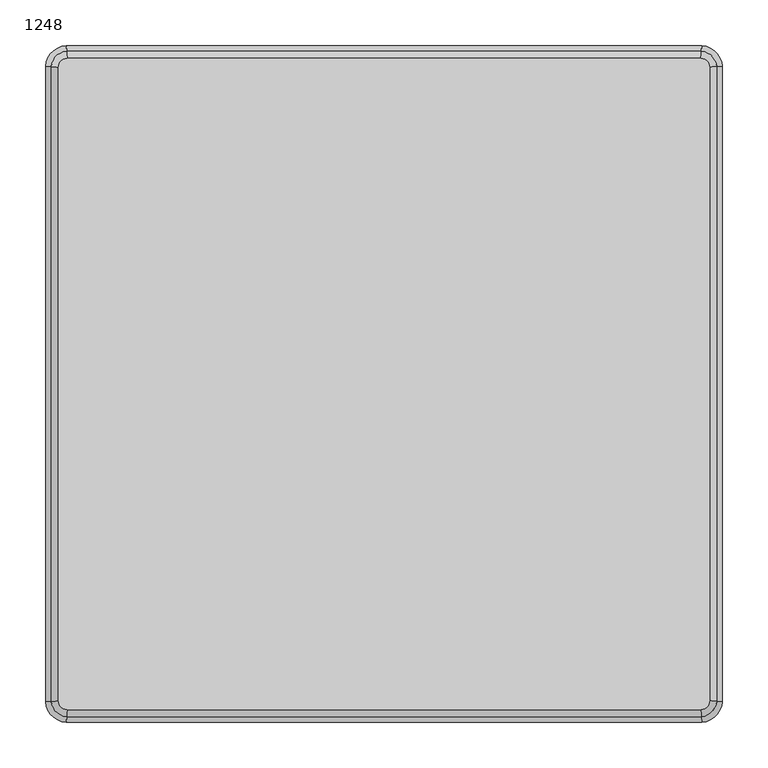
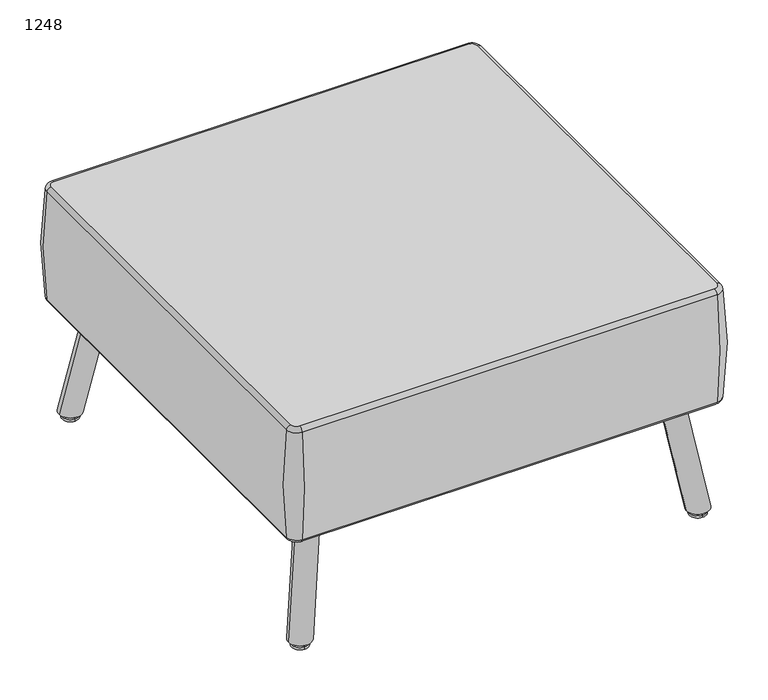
"""IFC4 building model written with IfcOpenShell, lengths in millimetres: furniture geometry, Laguna-Square_Ottomans-With_Legs-ERG : 1248."""

from ifc_helpers import new_model, si_unit, point, frame, frame_2d, origin, place, context, project, spatial, polyline, circle_curve, ellipse_curve, trimmed, segment, composite_curve, outline, extrude, source, transform, mapped, element, save
from ifc_brep_helpers import plane_surface, cylinder_surface, revolved_surface, spline_surface, advanced_brep


def furniture_1248_87769bc4(model_context):
    return source(origin(), model_context, "Body", "SolidModel", [
        advanced_brep(
        [(-4705.4077961, 1286.5407835, 406.4), (-4715.1271097, 1276.82147, 406.4), (-4715.1271097, 581.8902303, 406.4), (-4705.4077961, 572.1709168, 406.4), (-4010.4765565, 572.1709168, 406.4), (-4000.757243, 581.8902303, 406.4), (-4000.757243, 1276.82147, 406.4), (-4010.4765565, 1286.5407835, 406.4), (-4715.1271097, 1276.82147, 203.2), (-4705.4077961, 1286.5407835, 203.2), (-4010.4765565, 1286.5407835, 203.2), (-4000.757243, 1276.82147, 203.2), (-4000.757243, 581.8902303, 203.2), (-4010.4765565, 572.1709168, 203.2), (-4705.4077961, 572.1709168, 203.2), (-4715.1271097, 581.8902303, 203.2), (-4722.6676775, 1277.2535593, 399.7887299), (-4705.8398855, 1294.0813513, 399.7887299), (-4705.8398855, 1294.0813513, 209.8112701), (-4722.6676775, 1277.2535593, 209.8112701), (-4722.6676775, 581.458141, 209.8112701), (-4722.6676775, 581.458141, 399.7887299), (-4705.8398855, 564.630349, 209.8112701), (-4705.8398855, 564.630349, 399.7887299), (-4010.0444671, 564.630349, 209.8112701), (-4010.0444671, 564.630349, 399.7887299), (-3993.2166751, 581.458141, 209.8112701), (-3993.2166751, 581.458141, 399.7887299), (-3993.2166751, 1277.2535593, 209.8112701), (-3993.2166751, 1277.2535593, 399.7887299), (-4010.0444671, 1294.0813513, 209.8112701), (-4010.0444671, 1294.0813513, 399.7887299)],
        [
            (0, 1, circle_curve(frame((-4704.8170071, 1276.2306809, 406.4), z_axis=(0.0, 0.0, 1.0), x_axis=(-0.05720811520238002, 0.9983622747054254, 0.0)), 10.3270154)),
            (1, 2, circle_curve(frame((1348.637889, 929.3558502, 406.4), z_axis=(0.0, 0.0, 1.0), x_axis=(-0.9983622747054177, 0.057208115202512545, 0.0)), 6073.7120706)),
            (2, 3, circle_curve(frame((-4704.8170071, 582.4810194, 406.4), z_axis=(0.0, 0.0, 1.0), x_axis=(-0.9983622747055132, -0.05720811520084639, 0.0)), 10.3270154)),
            (3, 4, circle_curve(frame((-4357.9421763, 6635.9359155, 406.4), z_axis=(0.0, 0.0, 1.0), x_axis=(-0.05720811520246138, -0.9983622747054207, 0.0)), 6073.7120706)),
            (4, 5, circle_curve(frame((-4011.0673456, 582.4810194, 406.4), z_axis=(0.0, 0.0, 1.0), x_axis=(0.05720811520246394, -0.9983622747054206, 0.0)), 10.3270154)),
            (5, 6, circle_curve(frame((-10064.5222416, 929.3558502, 406.4), z_axis=(0.0, 0.0, 1.0), x_axis=(0.9983622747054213, -0.05720811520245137, 0.0)), 6073.7120706)),
            (6, 7, circle_curve(frame((-4011.0673456, 1276.2306809, 406.4), z_axis=(0.0, 0.0, 1.0), x_axis=(0.9983622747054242, 0.057208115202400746, 0.0)), 10.3270154)),
            (7, 0, circle_curve(frame((-4357.9421763, -4777.2242152, 406.4), z_axis=(0.0, 0.0, 1.0), x_axis=(0.0572081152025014, 0.9983622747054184, 0.0)), 6073.7120706)),
            (8, 9, circle_curve(frame((-4704.8170071, 1276.2306809, 203.2), z_axis=(0.0, 0.0, -1.0), x_axis=(-0.05720811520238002, 0.9983622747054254, 0.0)), 10.3270154)),
            (9, 10, circle_curve(frame((-4357.9421763, -4777.2242152, 203.2), z_axis=(0.0, 0.0, -1.0), x_axis=(0.0572081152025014, 0.9983622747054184, 0.0)), 6073.7120706)),
            (10, 11, circle_curve(frame((-4011.0673456, 1276.2306809, 203.2), z_axis=(0.0, 0.0, -1.0), x_axis=(0.9983622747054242, 0.057208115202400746, 0.0)), 10.3270154)),
            (11, 12, circle_curve(frame((-10064.5222416, 929.3558502, 203.2), z_axis=(0.0, 0.0, -1.0), x_axis=(0.9983622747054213, -0.05720811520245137, 0.0)), 6073.7120706)),
            (12, 13, circle_curve(frame((-4011.0673456, 582.4810194, 203.2), z_axis=(0.0, 0.0, -1.0), x_axis=(0.05720811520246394, -0.9983622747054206, 0.0)), 10.3270154)),
            (13, 14, circle_curve(frame((-4357.9421763, 6635.9359155, 203.2), z_axis=(0.0, 0.0, -1.0), x_axis=(-0.05720811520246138, -0.9983622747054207, 0.0)), 6073.7120706)),
            (14, 15, circle_curve(frame((-4704.8170071, 582.4810194, 203.2), z_axis=(0.0, 0.0, -1.0), x_axis=(-0.9983622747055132, -0.05720811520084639, 0.0)), 10.3270154)),
            (15, 8, circle_curve(frame((1348.637889, 929.3558502, 203.2), z_axis=(0.0, 0.0, -1.0), x_axis=(-0.9983622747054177, 0.057208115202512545, 0.0)), 6073.7120706)),
            (16, 17, circle_curve(frame((-4704.8170071, 1276.2306809, 399.7887299), z_axis=(0.0, 0.0, -1.0), x_axis=(-0.05720811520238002, 0.9983622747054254, 0.0)), 17.8799529)),
            (17, 18, circle_curve(frame((-4665.1514749, 584.0112161, 304.8), z_axis=(-0.9983622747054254, -0.057208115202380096, 0.0), x_axis=(0.057208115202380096, -0.9983622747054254, 0.0)), 717.55)),
            (18, 19, circle_curve(frame((-4704.8170071, 1276.2306809, 209.8112701), z_axis=(0.0, 0.0, 1.0), x_axis=(-0.05720811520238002, 0.9983622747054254, 0.0)), 17.8799529)),
            (19, 16, circle_curve(frame((-4012.5975423, 1236.5651488, 304.8), z_axis=(0.057208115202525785, 0.998362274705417, 0.0), x_axis=(0.998362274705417, -0.057208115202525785, 0.0)), 717.55)),
            (16, 1, circle_curve(frame((-4715.1271097, 1276.82147, 398.78), z_axis=(0.057208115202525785, 0.998362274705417, 0.0), x_axis=(0.998362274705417, -0.057208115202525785, 0.0)), 7.62)),
            (0, 17, circle_curve(frame((-4705.4077961, 1286.5407835, 398.78), z_axis=(-0.9983622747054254, -0.057208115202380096, 0.0), x_axis=(0.057208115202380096, -0.9983622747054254, 0.0)), 7.62)),
            (18, 9, circle_curve(frame((-4705.4077961, 1286.5407835, 210.82), z_axis=(-0.9983622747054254, -0.057208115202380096, 0.0), x_axis=(0.057208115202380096, -0.9983622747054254, 0.0)), 7.62)),
            (8, 19, circle_curve(frame((-4715.1271097, 1276.82147, 210.82), z_axis=(0.057208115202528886, 0.9983622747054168, 0.0), x_axis=(0.9983622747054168, -0.057208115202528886, 0.0)), 7.62)),
            (19, 20, circle_curve(frame((1348.637889, 929.3558502, 209.8112701), z_axis=(0.0, 0.0, 1.0), x_axis=(-0.9983622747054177, 0.057208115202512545, 0.0)), 6081.265008)),
            (20, 21, circle_curve(frame((-4012.5975423, 622.1465515, 304.8), z_axis=(-0.05720811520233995, 0.9983622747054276, 0.0), x_axis=(0.9983622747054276, 0.05720811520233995, 0.0)), 717.55)),
            (21, 16, circle_curve(frame((1348.637889, 929.3558502, 399.7887299), z_axis=(0.0, 0.0, -1.0), x_axis=(-0.9983622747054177, 0.057208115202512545, 0.0)), 6081.265008)),
            (21, 2, circle_curve(frame((-4715.1271097, 581.8902303, 398.78), z_axis=(-0.05720811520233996, 0.9983622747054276, 0.0), x_axis=(0.9983622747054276, 0.05720811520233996, 0.0)), 7.62)),
            (15, 20, circle_curve(frame((-4715.1271097, 581.8902303, 210.82), z_axis=(-0.05720811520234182, 0.9983622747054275, 0.0), x_axis=(0.9983622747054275, 0.05720811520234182, 0.0)), 7.62)),
            (20, 22, circle_curve(frame((-4704.8170071, 582.4810194, 209.8112701), z_axis=(0.0, 0.0, 1.0), x_axis=(-0.9983622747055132, -0.05720811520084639, 0.0)), 17.8799529)),
            (22, 23, circle_curve(frame((-4665.1514749, 1274.7004842, 304.8), z_axis=(-0.9983622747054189, 0.057208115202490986, 0.0), x_axis=(0.057208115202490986, 0.9983622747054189, 0.0)), 717.55)),
            (23, 21, circle_curve(frame((-4704.8170071, 582.4810194, 399.7887299), z_axis=(0.0, 0.0, -1.0), x_axis=(-0.9983622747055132, -0.05720811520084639, 0.0)), 17.8799529)),
            (23, 3, circle_curve(frame((-4705.4077961, 572.1709168, 398.78), z_axis=(-0.9983622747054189, 0.057208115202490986, 0.0), x_axis=(0.057208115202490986, 0.9983622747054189, 0.0)), 7.62)),
            (14, 22, circle_curve(frame((-4705.4077961, 572.1709168, 210.82), z_axis=(-0.9983622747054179, 0.05720811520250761, 0.0), x_axis=(0.05720811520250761, 0.9983622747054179, 0.0)), 7.62)),
            (22, 24, circle_curve(frame((-4357.9421763, 6635.9359155, 209.8112701), z_axis=(0.0, 0.0, 1.0), x_axis=(-0.05720811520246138, -0.9983622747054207, 0.0)), 6081.265008)),
            (24, 25, circle_curve(frame((-4050.7328777, 1274.7004842, 304.8), z_axis=(-0.9983622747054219, -0.057208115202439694, 0.0), x_axis=(-0.057208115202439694, 0.9983622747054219, 0.0)), 717.55)),
            (25, 23, circle_curve(frame((-4357.9421763, 6635.9359155, 399.7887299), z_axis=(0.0, 0.0, -1.0), x_axis=(-0.05720811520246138, -0.9983622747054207, 0.0)), 6081.265008)),
            (25, 4, circle_curve(frame((-4010.4765565, 572.1709168, 398.78), z_axis=(-0.9983622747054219, -0.057208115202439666, 0.0), x_axis=(-0.057208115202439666, 0.9983622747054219, 0.0)), 7.62)),
            (13, 24, circle_curve(frame((-4010.4765565, 572.1709168, 210.82), z_axis=(-0.9983622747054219, -0.05720811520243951, 0.0), x_axis=(-0.05720811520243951, 0.9983622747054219, 0.0)), 7.62)),
            (24, 26, circle_curve(frame((-4011.0673456, 582.4810194, 209.8112701), z_axis=(0.0, 0.0, 1.0), x_axis=(0.05720811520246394, -0.9983622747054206, 0.0)), 17.8799529)),
            (26, 27, circle_curve(frame((-4703.2868104, 622.1465515, 304.8), z_axis=(-0.05720811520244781, -0.9983622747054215, 0.0), x_axis=(-0.9983622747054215, 0.05720811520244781, 0.0)), 717.55)),
            (27, 25, circle_curve(frame((-4011.0673456, 582.4810194, 399.7887299), z_axis=(0.0, 0.0, -1.0), x_axis=(0.05720811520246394, -0.9983622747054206, 0.0)), 17.8799529)),
            (27, 5, circle_curve(frame((-4000.757243, 581.8902303, 398.78), z_axis=(-0.05720811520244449, -0.9983622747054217, 0.0), x_axis=(-0.9983622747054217, 0.05720811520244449, 0.0)), 7.62)),
            (12, 26, circle_curve(frame((-4000.757243, 581.8902303, 210.82), z_axis=(-0.05720811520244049, -0.9983622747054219, 0.0), x_axis=(-0.9983622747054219, 0.05720811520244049, 0.0)), 7.62)),
            (26, 28, circle_curve(frame((-10064.5222416, 929.3558502, 209.8112701), z_axis=(0.0, 0.0, 1.0), x_axis=(0.9983622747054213, -0.05720811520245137, 0.0)), 6081.265008)),
            (28, 29, circle_curve(frame((-4703.2868104, 1236.5651488, 304.8), z_axis=(0.05720811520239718, -0.9983622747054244, 0.0), x_axis=(-0.9983622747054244, -0.05720811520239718, 0.0)), 717.55)),
            (29, 27, circle_curve(frame((-10064.5222416, 929.3558502, 399.7887299), z_axis=(0.0, 0.0, -1.0), x_axis=(0.9983622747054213, -0.05720811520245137, 0.0)), 6081.265008)),
            (29, 6, circle_curve(frame((-4000.757243, 1276.82147, 398.78), z_axis=(0.057208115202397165, -0.9983622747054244, 0.0), x_axis=(-0.9983622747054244, -0.057208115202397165, 0.0)), 7.62)),
            (11, 28, circle_curve(frame((-4000.757243, 1276.82147, 210.82), z_axis=(0.05720811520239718, -0.9983622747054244, 0.0), x_axis=(-0.9983622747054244, -0.05720811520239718, 0.0)), 7.62)),
            (28, 30, circle_curve(frame((-4011.0673456, 1276.2306809, 209.8112701), z_axis=(0.0, 0.0, 1.0), x_axis=(0.9983622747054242, 0.057208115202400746, 0.0)), 17.8799529)),
            (30, 31, circle_curve(frame((-4050.7328777, 584.0112161, 304.8), z_axis=(0.9983622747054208, -0.05720811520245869, 0.0), x_axis=(-0.05720811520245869, -0.9983622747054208, 0.0)), 717.55)),
            (31, 29, circle_curve(frame((-4011.0673456, 1276.2306809, 399.7887299), z_axis=(0.0, 0.0, -1.0), x_axis=(0.9983622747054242, 0.057208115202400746, 0.0)), 17.8799529)),
            (31, 7, circle_curve(frame((-4010.4765565, 1286.5407835, 398.78), z_axis=(0.9983622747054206, -0.05720811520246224, 0.0), x_axis=(-0.05720811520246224, -0.9983622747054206, 0.0)), 7.62)),
            (10, 30, circle_curve(frame((-4010.4765565, 1286.5407835, 210.82), z_axis=(0.9983622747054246, -0.05720811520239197, 0.0), x_axis=(-0.05720811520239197, -0.9983622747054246, 0.0)), 7.62)),
            (17, 31, circle_curve(frame((-4357.9421763, -4777.2242152, 399.7887299), z_axis=(0.0, 0.0, -1.0), x_axis=(0.0572081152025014, 0.9983622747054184, 0.0)), 6081.265008)),
            (30, 18, circle_curve(frame((-4357.9421763, -4777.2242152, 209.8112701), z_axis=(0.0, 0.0, 1.0), x_axis=(0.0572081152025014, 0.9983622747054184, 0.0)), 6081.265008)),
        ],
        [
            plane_surface(frame((-4694.4899916, 1276.2306809, 406.4), z_axis=(0.0, 0.0, 1.0), x_axis=(0.0, 1.0, 0.0))),
            plane_surface(frame((-4694.4899916, 1276.2306809, 203.2), z_axis=(0.0, 0.0, -1.0), x_axis=(0.0, -1.0, 0.0))),
            revolved_surface(trimmed(ellipse_curve(frame((-4665.1514749, 584.0112161, 304.8), z_axis=(0.9983622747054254, 0.057208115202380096, 0.0), x_axis=(0.057208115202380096, -0.9983622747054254, 0.0)), 717.55, 717.55), [point((-4705.8398855, 1294.0813513, 209.8112701))], [point((-4705.8398855, 1294.0813513, 399.7887299))], True, "CARTESIAN"), (-4704.8170071, 1276.2306809, 0.0), (0.0, 0.0, 1.0)),
            revolved_surface(trimmed(ellipse_curve(frame((-4705.4077961, 1286.5407835, 398.78), z_axis=(0.9983622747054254, 0.057208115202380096, 0.0), x_axis=(0.057208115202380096, -0.9983622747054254, 0.0)), 7.62, 7.62), [point((-4705.8398855, 1294.0813513, 399.7887299))], [point((-4705.4077961, 1286.5407835, 406.4))], True, "CARTESIAN"), (-4704.8170071, 1276.2306809, 0.0), (0.0, 0.0, 1.0)),
            revolved_surface(trimmed(ellipse_curve(frame((-4705.4077961, 1286.5407835, 210.82), z_axis=(0.9983622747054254, 0.057208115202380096, 0.0), x_axis=(0.057208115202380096, -0.9983622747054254, 0.0)), 7.62, 7.62), [point((-4705.4077961, 1286.5407835, 203.2))], [point((-4705.8398855, 1294.0813513, 209.8112701))], True, "CARTESIAN"), (-4704.8170071, 1276.2306809, 0.0), (0.0, 0.0, 1.0)),
            revolved_surface(trimmed(ellipse_curve(frame((-4012.5975423, 1236.5651488, 304.8), z_axis=(0.05720811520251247, 0.9983622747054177, 0.0), x_axis=(0.9983622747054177, -0.05720811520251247, 0.0)), 717.55, 717.55), [point((-4722.6676775, 1277.2535593, 209.8112701))], [point((-4722.6676775, 1277.2535593, 399.7887299))], True, "CARTESIAN"), (1348.637889, 929.3558502, 0.0), (0.0, 0.0, 1.0)),
            revolved_surface(trimmed(ellipse_curve(frame((-4715.1271097, 1276.82147, 398.78), z_axis=(0.05720811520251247, 0.9983622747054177, 0.0), x_axis=(0.9983622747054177, -0.05720811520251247, 0.0)), 7.62, 7.62), [point((-4722.6676775, 1277.2535593, 399.7887299))], [point((-4715.1271097, 1276.82147, 406.4))], True, "CARTESIAN"), (1348.637889, 929.3558502, 0.0), (0.0, 0.0, 1.0)),
            revolved_surface(trimmed(ellipse_curve(frame((-4715.1271097, 1276.82147, 210.82), z_axis=(0.05720811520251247, 0.9983622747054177, 0.0), x_axis=(0.9983622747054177, -0.05720811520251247, 0.0)), 7.62, 7.62), [point((-4715.1271097, 1276.82147, 203.2))], [point((-4722.6676775, 1277.2535593, 209.8112701))], True, "CARTESIAN"), (1348.637889, 929.3558502, 0.0), (0.0, 0.0, 1.0)),
            revolved_surface(trimmed(ellipse_curve(frame((-4012.5975423, 622.1465515, 304.8), z_axis=(-0.05720811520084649, 0.9983622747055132, 0.0), x_axis=(0.9983622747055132, 0.05720811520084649, 0.0)), 717.55, 717.55), [point((-4722.6676775, 581.458141, 209.8112701))], [point((-4722.6676775, 581.458141, 399.7887299))], True, "CARTESIAN"), (-4704.8170071, 582.4810194, 0.0), (0.0, 0.0, 1.0)),
            revolved_surface(trimmed(ellipse_curve(frame((-4715.1271097, 581.8902303, 398.78), z_axis=(-0.05720811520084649, 0.9983622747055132, 0.0), x_axis=(0.9983622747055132, 0.05720811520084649, 0.0)), 7.62, 7.62), [point((-4722.6676775, 581.458141, 399.7887299))], [point((-4715.1271097, 581.8902303, 406.4))], True, "CARTESIAN"), (-4704.8170071, 582.4810194, 0.0), (0.0, 0.0, 1.0)),
            revolved_surface(trimmed(ellipse_curve(frame((-4715.1271097, 581.8902303, 210.82), z_axis=(-0.05720811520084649, 0.9983622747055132, 0.0), x_axis=(0.9983622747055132, 0.05720811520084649, 0.0)), 7.62, 7.62), [point((-4715.1271097, 581.8902303, 203.2))], [point((-4722.6676775, 581.458141, 209.8112701))], True, "CARTESIAN"), (-4704.8170071, 582.4810194, 0.0), (0.0, 0.0, 1.0)),
            revolved_surface(trimmed(ellipse_curve(frame((-4665.1514749, 1274.7004842, 304.8), z_axis=(-0.9983622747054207, 0.05720811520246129, 0.0), x_axis=(0.05720811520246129, 0.9983622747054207, 0.0)), 717.55, 717.55), [point((-4705.8398855, 564.630349, 209.8112701))], [point((-4705.8398855, 564.630349, 399.7887299))], True, "CARTESIAN"), (-4357.9421763, 6635.9359155, 0.0), (0.0, 0.0, 1.0)),
            revolved_surface(trimmed(ellipse_curve(frame((-4705.4077961, 572.1709168, 398.78), z_axis=(-0.9983622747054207, 0.05720811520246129, 0.0), x_axis=(0.05720811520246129, 0.9983622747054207, 0.0)), 7.62, 7.62), [point((-4705.8398855, 564.630349, 399.7887299))], [point((-4705.4077961, 572.1709168, 406.4))], True, "CARTESIAN"), (-4357.9421763, 6635.9359155, 0.0), (0.0, 0.0, 1.0)),
            revolved_surface(trimmed(ellipse_curve(frame((-4705.4077961, 572.1709168, 210.82), z_axis=(-0.9983622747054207, 0.05720811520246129, 0.0), x_axis=(0.05720811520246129, 0.9983622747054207, 0.0)), 7.62, 7.62), [point((-4705.4077961, 572.1709168, 203.2))], [point((-4705.8398855, 564.630349, 209.8112701))], True, "CARTESIAN"), (-4357.9421763, 6635.9359155, 0.0), (0.0, 0.0, 1.0)),
            revolved_surface(trimmed(ellipse_curve(frame((-4050.7328777, 1274.7004842, 304.8), z_axis=(-0.9983622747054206, -0.05720811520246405, 0.0), x_axis=(-0.05720811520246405, 0.9983622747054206, 0.0)), 717.55, 717.55), [point((-4010.0444671, 564.630349, 209.8112701))], [point((-4010.0444671, 564.630349, 399.7887299))], True, "CARTESIAN"), (-4011.0673456, 582.4810194, 0.0), (0.0, 0.0, 1.0)),
            revolved_surface(trimmed(ellipse_curve(frame((-4010.4765565, 572.1709168, 398.78), z_axis=(-0.9983622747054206, -0.05720811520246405, 0.0), x_axis=(-0.05720811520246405, 0.9983622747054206, 0.0)), 7.62, 7.62), [point((-4010.0444671, 564.630349, 399.7887299))], [point((-4010.4765565, 572.1709168, 406.4))], True, "CARTESIAN"), (-4011.0673456, 582.4810194, 0.0), (0.0, 0.0, 1.0)),
            revolved_surface(trimmed(ellipse_curve(frame((-4010.4765565, 572.1709168, 210.82), z_axis=(-0.9983622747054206, -0.05720811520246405, 0.0), x_axis=(-0.05720811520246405, 0.9983622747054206, 0.0)), 7.62, 7.62), [point((-4010.4765565, 572.1709168, 203.2))], [point((-4010.0444671, 564.630349, 209.8112701))], True, "CARTESIAN"), (-4011.0673456, 582.4810194, 0.0), (0.0, 0.0, 1.0)),
            revolved_surface(trimmed(ellipse_curve(frame((-4703.2868104, 622.1465515, 304.8), z_axis=(-0.05720811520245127, -0.9983622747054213, 0.0), x_axis=(-0.9983622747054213, 0.05720811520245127, 0.0)), 717.55, 717.55), [point((-3993.2166751, 581.458141, 209.8112701))], [point((-3993.2166751, 581.458141, 399.7887299))], True, "CARTESIAN"), (-10064.5222416, 929.3558502, 0.0), (0.0, 0.0, 1.0)),
            revolved_surface(trimmed(ellipse_curve(frame((-4000.757243, 581.8902303, 398.78), z_axis=(-0.05720811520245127, -0.9983622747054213, 0.0), x_axis=(-0.9983622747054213, 0.05720811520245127, 0.0)), 7.62, 7.62), [point((-3993.2166751, 581.458141, 399.7887299))], [point((-4000.757243, 581.8902303, 406.4))], True, "CARTESIAN"), (-10064.5222416, 929.3558502, 0.0), (0.0, 0.0, 1.0)),
            revolved_surface(trimmed(ellipse_curve(frame((-4000.757243, 581.8902303, 210.82), z_axis=(-0.05720811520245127, -0.9983622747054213, 0.0), x_axis=(-0.9983622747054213, 0.05720811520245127, 0.0)), 7.62, 7.62), [point((-4000.757243, 581.8902303, 203.2))], [point((-3993.2166751, 581.458141, 209.8112701))], True, "CARTESIAN"), (-10064.5222416, 929.3558502, 0.0), (0.0, 0.0, 1.0)),
            revolved_surface(trimmed(ellipse_curve(frame((-4703.2868104, 1236.5651488, 304.8), z_axis=(0.05720811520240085, -0.9983622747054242, 0.0), x_axis=(-0.9983622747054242, -0.05720811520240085, 0.0)), 717.55, 717.55), [point((-3993.2166751, 1277.2535593, 209.8112701))], [point((-3993.2166751, 1277.2535593, 399.7887299))], True, "CARTESIAN"), (-4011.0673456, 1276.2306809, 0.0), (0.0, 0.0, 1.0)),
            revolved_surface(trimmed(ellipse_curve(frame((-4000.757243, 1276.82147, 398.78), z_axis=(0.05720811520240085, -0.9983622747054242, 0.0), x_axis=(-0.9983622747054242, -0.05720811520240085, 0.0)), 7.62, 7.62), [point((-3993.2166751, 1277.2535593, 399.7887299))], [point((-4000.757243, 1276.82147, 406.4))], True, "CARTESIAN"), (-4011.0673456, 1276.2306809, 0.0), (0.0, 0.0, 1.0)),
            revolved_surface(trimmed(ellipse_curve(frame((-4000.757243, 1276.82147, 210.82), z_axis=(0.05720811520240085, -0.9983622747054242, 0.0), x_axis=(-0.9983622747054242, -0.05720811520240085, 0.0)), 7.62, 7.62), [point((-4000.757243, 1276.82147, 203.2))], [point((-3993.2166751, 1277.2535593, 209.8112701))], True, "CARTESIAN"), (-4011.0673456, 1276.2306809, 0.0), (0.0, 0.0, 1.0)),
            revolved_surface(trimmed(ellipse_curve(frame((-4050.7328777, 584.0112161, 304.8), z_axis=(0.9983622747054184, -0.057208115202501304, 0.0), x_axis=(-0.057208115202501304, -0.9983622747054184, 0.0)), 717.55, 717.55), [point((-4010.0444671, 1294.0813513, 209.8112701))], [point((-4010.0444671, 1294.0813513, 399.7887299))], True, "CARTESIAN"), (-4357.9421763, -4777.2242152, 0.0), (0.0, 0.0, 1.0)),
            revolved_surface(trimmed(ellipse_curve(frame((-4010.4765565, 1286.5407835, 398.78), z_axis=(0.9983622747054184, -0.057208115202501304, 0.0), x_axis=(-0.057208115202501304, -0.9983622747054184, 0.0)), 7.62, 7.62), [point((-4010.0444671, 1294.0813513, 399.7887299))], [point((-4010.4765565, 1286.5407835, 406.4))], True, "CARTESIAN"), (-4357.9421763, -4777.2242152, 0.0), (0.0, 0.0, 1.0)),
            revolved_surface(trimmed(ellipse_curve(frame((-4010.4765565, 1286.5407835, 210.82), z_axis=(0.9983622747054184, -0.057208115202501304, 0.0), x_axis=(-0.057208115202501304, -0.9983622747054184, 0.0)), 7.62, 7.62), [point((-4010.4765565, 1286.5407835, 203.2))], [point((-4010.0444671, 1294.0813513, 209.8112701))], True, "CARTESIAN"), (-4357.9421763, -4777.2242152, 0.0), (0.0, 0.0, 1.0)),
        ],
        [
            (0, [[1, 2, 3, 4, 5, 6, 7, 8]]),
            (1, [[9, 10, 11, 12, 13, 14, 15, 16]]),
            (2, [[17, 18, 19, 20]]),
            (3, [[-17, 21, -1, 22]]),
            (4, [[-19, 23, -9, 24]]),
            (5, [[-20, 25, 26, 27]]),
            (6, [[-21, -27, 28, -2]]),
            (7, [[-24, -16, 29, -25]]),
            (8, [[-26, 30, 31, 32]]),
            (9, [[-28, -32, 33, -3]]),
            (10, [[-29, -15, 34, -30]]),
            (11, [[-31, 35, 36, 37]]),
            (12, [[-33, -37, 38, -4]]),
            (13, [[-34, -14, 39, -35]]),
            (14, [[-36, 40, 41, 42]]),
            (15, [[-38, -42, 43, -5]]),
            (16, [[-39, -13, 44, -40]]),
            (17, [[-41, 45, 46, 47]]),
            (18, [[-43, -47, 48, -6]]),
            (19, [[-44, -12, 49, -45]]),
            (20, [[-46, 50, 51, 52]]),
            (21, [[-48, -52, 53, -7]]),
            (22, [[-49, -11, 54, -50]]),
            (23, [[-18, 55, -51, 56]]),
            (24, [[-22, -8, -53, -55]]),
            (25, [[-23, -56, -54, -10]]),
        ],
    ),
        extrude(outline(composite_curve([segment(trimmed(circle_curve(frame_2d((-4654.4187381, 1268.9376413)), 5.08), [point((-4658.0108405, 1272.5297438))], [point((-4650.8266356, 1272.5297438))], False, "CARTESIAN"), True, "CONTINUOUS"), segment(polyline([(-4650.8266356, 1272.5297438), (-4622.089816, 1243.7929242)]), True, "CONTINUOUS"), segment(trimmed(circle_curve(frame_2d((-4625.6819185, 1240.2008217)), 5.08), [point((-4622.089816, 1243.7929242))], [point((-4622.089816, 1236.6087193))], False, "CARTESIAN"), True, "CONTINUOUS"), segment(polyline([(-4622.089816, 1236.6087193), (-4665.1950454, 1193.5034899)]), True, "CONTINUOUS"), segment(trimmed(circle_curve(frame_2d((-4668.7871479, 1197.0955923)), 5.08), [point((-4665.1950454, 1193.5034899))], [point((-4672.3792503, 1193.5034899))], False, "CARTESIAN"), True, "CONTINUOUS"), segment(polyline([(-4672.3792503, 1193.5034899), (-4701.1160699, 1222.2403095)]), True, "CONTINUOUS"), segment(trimmed(circle_curve(frame_2d((-4697.5239674, 1225.8324119)), 5.08), [point((-4701.1160699, 1222.2403095))], [point((-4701.1160699, 1229.4245144))], False, "CARTESIAN"), True, "CONTINUOUS"), segment(polyline([(-4701.1160699, 1229.4245144), (-4658.0108405, 1272.5297438)]), True, "CONTINUOUS")], self_intersect=False)), frame((0.0, 0.0, 200.66), z_axis=(0.0, 0.0, 1.0), x_axis=(1.0, 0.0, 0.0)), (0.0, 0.0, 1.0), 2.54),
        extrude(outline(composite_curve([segment(polyline([(-4057.8735121, 1272.5297438), (-4014.7682827, 1229.4245144)]), True, "CONTINUOUS"), segment(trimmed(circle_curve(frame_2d((-4018.3603852, 1225.8324119)), 5.08), [point((-4014.7682827, 1229.4245144))], [point((-4014.7682827, 1222.2403095))], False, "CARTESIAN"), True, "CONTINUOUS"), segment(polyline([(-4014.7682827, 1222.2403095), (-4043.5051023, 1193.5034899)]), True, "CONTINUOUS"), segment(trimmed(circle_curve(frame_2d((-4047.0972048, 1197.0955923)), 5.08), [point((-4043.5051023, 1193.5034899))], [point((-4050.6893072, 1193.5034899))], False, "CARTESIAN"), True, "CONTINUOUS"), segment(polyline([(-4050.6893072, 1193.5034899), (-4093.7945366, 1236.6087193)]), True, "CONTINUOUS"), segment(trimmed(circle_curve(frame_2d((-4090.2024341, 1240.2008217)), 5.08), [point((-4093.7945366, 1236.6087193))], [point((-4093.7945366, 1243.7929242))], False, "CARTESIAN"), True, "CONTINUOUS"), segment(polyline([(-4093.7945366, 1243.7929242), (-4065.057717, 1272.5297438)]), True, "CONTINUOUS"), segment(trimmed(circle_curve(frame_2d((-4061.4656145, 1268.9376413)), 5.08), [point((-4065.057717, 1272.5297438))], [point((-4057.8735121, 1272.5297438))], False, "CARTESIAN"), True, "CONTINUOUS")], self_intersect=False)), frame((0.0, 0.0, 200.66), z_axis=(0.0, 0.0, 1.0), x_axis=(1.0, 0.0, 0.0)), (0.0, 0.0, 1.0), 2.54),
        extrude(outline(composite_curve([segment(trimmed(circle_curve(frame_2d((-4018.3603852, 632.8792884)), 5.08), [point((-4014.7682827, 636.4713909))], [point((-4014.7682827, 629.287186))], False, "CARTESIAN"), True, "CONTINUOUS"), segment(polyline([(-4014.7682827, 629.287186), (-4057.8735121, 586.1819566)]), True, "CONTINUOUS"), segment(trimmed(circle_curve(frame_2d((-4061.4656145, 589.774059)), 5.08), [point((-4057.8735121, 586.1819566))], [point((-4065.057717, 586.1819566))], False, "CARTESIAN"), True, "CONTINUOUS"), segment(polyline([(-4065.057717, 586.1819566), (-4093.7945366, 614.9187762)]), True, "CONTINUOUS"), segment(trimmed(circle_curve(frame_2d((-4090.2024341, 618.5108786)), 5.08), [point((-4093.7945366, 614.9187762))], [point((-4093.7945366, 622.1029811))], False, "CARTESIAN"), True, "CONTINUOUS"), segment(polyline([(-4093.7945366, 622.1029811), (-4050.6893072, 665.2082105)]), True, "CONTINUOUS"), segment(trimmed(circle_curve(frame_2d((-4047.0972048, 661.616108)), 5.08), [point((-4050.6893072, 665.2082105))], [point((-4043.5051023, 665.2082105))], False, "CARTESIAN"), True, "CONTINUOUS"), segment(polyline([(-4043.5051023, 665.2082105), (-4014.7682827, 636.4713909)]), True, "CONTINUOUS")], self_intersect=False)), frame((0.0, 0.0, 200.66), z_axis=(0.0, 0.0, 1.0), x_axis=(1.0, 0.0, 0.0)), (0.0, 0.0, 1.0), 2.54),
        extrude(outline(composite_curve([segment(polyline([(-4665.1950454, 665.2082105), (-4622.089816, 622.1029811)]), True, "CONTINUOUS"), segment(trimmed(circle_curve(frame_2d((-4625.6819185, 618.5108786)), 5.08), [point((-4622.089816, 622.1029811))], [point((-4622.089816, 614.9187762))], False, "CARTESIAN"), True, "CONTINUOUS"), segment(polyline([(-4622.089816, 614.9187762), (-4650.8266356, 586.1819566)]), True, "CONTINUOUS"), segment(trimmed(circle_curve(frame_2d((-4654.4187381, 589.774059)), 5.08), [point((-4650.8266356, 586.1819566))], [point((-4658.0108405, 586.1819566))], False, "CARTESIAN"), True, "CONTINUOUS"), segment(polyline([(-4658.0108405, 586.1819566), (-4701.1160699, 629.287186)]), True, "CONTINUOUS"), segment(trimmed(circle_curve(frame_2d((-4697.5239674, 632.8792884)), 5.08), [point((-4701.1160699, 629.287186))], [point((-4701.1160699, 636.4713909))], False, "CARTESIAN"), True, "CONTINUOUS"), segment(polyline([(-4701.1160699, 636.4713909), (-4672.3792503, 665.2082105)]), True, "CONTINUOUS"), segment(trimmed(circle_curve(frame_2d((-4668.7871479, 661.616108)), 5.08), [point((-4672.3792503, 665.2082105))], [point((-4665.1950454, 665.2082105))], False, "CARTESIAN"), True, "CONTINUOUS")], self_intersect=False)), frame((0.0, 0.0, 200.66), z_axis=(0.0, 0.0, 1.0), x_axis=(1.0, 0.0, 0.0)), (0.0, 0.0, 1.0), 2.54),
        advanced_brep(
        [(-4691.3048436, 600.236231, 10.16), (-4691.3048436, 591.7501347, 10.16), (-4691.3048436, 591.7501347, 3.9615026), (-4691.3048436, 600.236231, 3.9615026), (-4691.3048436, 581.9148294, 3.9615026), (-4691.3048436, 610.0715363, 3.9615026), (-4691.3048436, 581.9148294, 0.0), (-4691.3048436, 610.0715363, 0.0), (-4691.3048436, 595.9931828, 0.0), (-4691.3048436, 595.9931828, 10.16)],
        [
            (0, 1, circle_curve(frame((-4691.3048436, 595.9931828, 10.16), z_axis=(0.0, 0.0, -1.0), x_axis=(0.0, -1.0, 0.0)), 4.2430482)),
            (1, 2),
            (2, 3, circle_curve(frame((-4691.3048436, 595.9931828, 3.9615026), z_axis=(0.0, 0.0, 1.0), x_axis=(0.0, -1.0, 0.0)), 4.2430482)),
            (3, 0),
            (1, 0, circle_curve(frame((-4691.3048436, 595.9931828, 10.16), z_axis=(0.0, 0.0, -1.0), x_axis=(0.0, -1.0, 0.0)), 4.2430482)),
            (3, 2, circle_curve(frame((-4691.3048436, 595.9931828, 3.9615026), z_axis=(0.0, 0.0, 1.0), x_axis=(0.0, -1.0, 0.0)), 4.2430482)),
            (2, 4),
            (4, 5, circle_curve(frame((-4691.3048436, 595.9931828, 3.9615026), z_axis=(0.0, 0.0, 1.0), x_axis=(0.0, -1.0, 0.0)), 14.0783534)),
            (5, 3),
            (5, 4, circle_curve(frame((-4691.3048436, 595.9931828, 3.9615026), z_axis=(0.0, 0.0, 1.0), x_axis=(0.0, -1.0, 0.0)), 14.0783534)),
            (4, 6),
            (6, 7, circle_curve(frame((-4691.3048436, 595.9931828, 0.0), z_axis=(0.0, 0.0, 1.0), x_axis=(0.0, -1.0, 0.0)), 14.0783534)),
            (7, 5),
            (7, 6, circle_curve(frame((-4691.3048436, 595.9931828, 0.0), z_axis=(0.0, 0.0, 1.0), x_axis=(0.0, -1.0, 0.0)), 14.0783534)),
            (6, 8),
            (8, 7),
            (9, 1),
            (0, 9),
        ],
        [
            cylinder_surface(frame((-4691.3048436, 595.9931828, 20.9252452), z_axis=(0.0, 0.0, 1.0), x_axis=(0.0, -1.0, 0.0)), 4.2430482),
            plane_surface(frame((-4691.3048436, 595.9931828, 3.9615026), z_axis=(0.0, 0.0, 1.0), x_axis=(0.0, -1.0, 0.0))),
            cylinder_surface(frame((-4691.3048436, 595.9931828, 20.9252452), z_axis=(0.0, 0.0, 1.0), x_axis=(0.0, -1.0, 0.0)), 14.0783534),
            plane_surface(frame((-4691.3048436, 595.9931828, 0.0), z_axis=(0.0, 0.0, -1.0), x_axis=(0.0, -1.0, 0.0))),
            plane_surface(frame((-4691.3048436, 595.9931828, 10.16), z_axis=(0.0, 0.0, 1.0), x_axis=(0.0, -1.0, 0.0))),
        ],
        [
            (0, [[1, 2, 3, 4]]),
            (0, [[5, -4, 6, -2]]),
            (1, [[-3, 7, 8, 9]]),
            (1, [[-6, -9, 10, -7]]),
            (2, [[-8, 11, 12, 13]]),
            (2, [[-10, -13, 14, -11]]),
            (3, [[-12, 15, 16]]),
            (3, [[-14, -16, -15]]),
            (4, [[17, -1, 18]]),
            (4, [[-18, -5, -17]]),
        ],
    ),
        advanced_brep(
        [(-4691.3048436, 1266.9615656, 3.9615026), (-4691.3048436, 1258.4754693, 3.9615026), (-4691.3048436, 1248.6401641, 3.9615026), (-4691.3048436, 1276.7968709, 3.9615026), (-4691.3048436, 1248.6401641, 0.0), (-4691.3048436, 1276.7968709, 0.0), (-4691.3048436, 1262.7185175, 0.0), (-4691.3048436, 1262.7185175, 10.16), (-4691.3048436, 1258.4754693, 10.16), (-4691.3048436, 1266.9615656, 10.16)],
        [
            (0, 1, circle_curve(frame((-4691.3048436, 1262.7185175, 3.9615026), z_axis=(0.0, 0.0, -1.0), x_axis=(0.0, -1.0, 0.0)), 4.2430481)),
            (1, 2),
            (2, 3, circle_curve(frame((-4691.3048436, 1262.7185175, 3.9615026), z_axis=(0.0, 0.0, 1.0), x_axis=(0.0, -1.0, 0.0)), 14.0783534)),
            (3, 0),
            (1, 0, circle_curve(frame((-4691.3048436, 1262.7185175, 3.9615026), z_axis=(0.0, 0.0, -1.0), x_axis=(0.0, -1.0, 0.0)), 4.2430481)),
            (3, 2, circle_curve(frame((-4691.3048436, 1262.7185175, 3.9615026), z_axis=(0.0, 0.0, 1.0), x_axis=(0.0, -1.0, 0.0)), 14.0783534)),
            (2, 4),
            (4, 5, circle_curve(frame((-4691.3048436, 1262.7185175, 0.0), z_axis=(0.0, 0.0, 1.0), x_axis=(0.0, -1.0, 0.0)), 14.0783534)),
            (5, 3),
            (5, 4, circle_curve(frame((-4691.3048436, 1262.7185175, 0.0), z_axis=(0.0, 0.0, 1.0), x_axis=(0.0, -1.0, 0.0)), 14.0783534)),
            (4, 6),
            (6, 5),
            (7, 8),
            (8, 9, circle_curve(frame((-4691.3048436, 1262.7185175, 10.16), z_axis=(0.0, 0.0, 1.0), x_axis=(0.0, -1.0, 0.0)), 4.2430481)),
            (9, 7),
            (9, 8, circle_curve(frame((-4691.3048436, 1262.7185175, 10.16), z_axis=(0.0, 0.0, 1.0), x_axis=(0.0, -1.0, 0.0)), 4.2430481)),
            (8, 1),
            (0, 9),
        ],
        [
            plane_surface(frame((-4691.3048436, 1262.7185175, 3.9615026), z_axis=(0.0, 0.0, 1.0), x_axis=(0.0, -1.0, 0.0))),
            cylinder_surface(frame((-4691.3048436, 1262.7185175, 29.21), z_axis=(0.0, 0.0, 1.0), x_axis=(0.0, -1.0, 0.0)), 14.0783534),
            plane_surface(frame((-4691.3048436, 1262.7185175, 0.0), z_axis=(0.0, 0.0, -1.0), x_axis=(0.0, -1.0, 0.0))),
            plane_surface(frame((-4691.3048436, 1262.7185175, 10.16), z_axis=(0.0, 0.0, 1.0), x_axis=(0.0, -1.0, 0.0))),
            cylinder_surface(frame((-4691.3048436, 1262.7185175, 29.21), z_axis=(0.0, 0.0, 1.0), x_axis=(0.0, -1.0, 0.0)), 4.2430481),
        ],
        [
            (0, [[1, 2, 3, 4]]),
            (0, [[5, -4, 6, -2]]),
            (1, [[-3, 7, 8, 9]]),
            (1, [[-6, -9, 10, -7]]),
            (2, [[-8, 11, 12]]),
            (2, [[-10, -12, -11]]),
            (3, [[13, 14, 15]]),
            (3, [[-15, 16, -13]]),
            (4, [[-14, 17, -1, 18]]),
            (4, [[-16, -18, -5, -17]]),
        ],
    ),
        advanced_brep(
        [(-4024.579509, 600.236231, 3.9615026), (-4024.579509, 591.7501347, 3.9615026), (-4024.579509, 591.7501347, 10.16), (-4024.579509, 600.236231, 10.16), (-4024.579509, 610.0715363, 3.9615026), (-4024.579509, 581.9148294, 3.9615026), (-4024.579509, 610.0715363, 0.0), (-4024.579509, 581.9148294, 0.0), (-4024.579509, 595.9931828, 0.0), (-4024.579509, 595.9931828, 10.16)],
        [
            (0, 1, circle_curve(frame((-4024.579509, 595.9931828, 3.9615026), z_axis=(0.0, 0.0, 1.0), x_axis=(0.0, -1.0, 0.0)), 4.2430482)),
            (1, 2),
            (2, 3, circle_curve(frame((-4024.579509, 595.9931828, 10.16), z_axis=(0.0, 0.0, -1.0), x_axis=(0.0, -1.0, 0.0)), 4.2430482)),
            (3, 0),
            (1, 0, circle_curve(frame((-4024.579509, 595.9931828, 3.9615026), z_axis=(0.0, 0.0, 1.0), x_axis=(0.0, -1.0, 0.0)), 4.2430482)),
            (3, 2, circle_curve(frame((-4024.579509, 595.9931828, 10.16), z_axis=(0.0, 0.0, -1.0), x_axis=(0.0, -1.0, 0.0)), 4.2430482)),
            (4, 5, circle_curve(frame((-4024.579509, 595.9931828, 3.9615026), z_axis=(0.0, 0.0, 1.0), x_axis=(0.0, -1.0, 0.0)), 14.0783534)),
            (5, 1),
            (0, 4),
            (5, 4, circle_curve(frame((-4024.579509, 595.9931828, 3.9615026), z_axis=(0.0, 0.0, 1.0), x_axis=(0.0, -1.0, 0.0)), 14.0783534)),
            (6, 7, circle_curve(frame((-4024.579509, 595.9931828, 0.0), z_axis=(0.0, 0.0, 1.0), x_axis=(0.0, -1.0, 0.0)), 14.0783534)),
            (7, 5),
            (4, 6),
            (7, 6, circle_curve(frame((-4024.579509, 595.9931828, 0.0), z_axis=(0.0, 0.0, 1.0), x_axis=(0.0, -1.0, 0.0)), 14.0783534)),
            (8, 7),
            (6, 8),
            (2, 9),
            (9, 3),
        ],
        [
            cylinder_surface(frame((-4024.579509, 595.9931828, 20.9252452), z_axis=(0.0, 0.0, -1.0), x_axis=(0.0, -1.0, 0.0)), 4.2430482),
            plane_surface(frame((-4024.579509, 595.9931828, 3.9615026), z_axis=(0.0, 0.0, 1.0), x_axis=(0.0, -1.0, 0.0))),
            cylinder_surface(frame((-4024.579509, 595.9931828, 20.9252452), z_axis=(0.0, 0.0, -1.0), x_axis=(0.0, -1.0, 0.0)), 14.0783534),
            plane_surface(frame((-4024.579509, 595.9931828, 0.0), z_axis=(0.0, 0.0, -1.0), x_axis=(0.0, -1.0, 0.0))),
            plane_surface(frame((-4024.579509, 595.9931828, 10.16), z_axis=(0.0, 0.0, 1.0), x_axis=(0.0, -1.0, 0.0))),
        ],
        [
            (0, [[1, 2, 3, 4]]),
            (0, [[5, -4, 6, -2]]),
            (1, [[7, 8, -1, 9]]),
            (1, [[10, -9, -5, -8]]),
            (2, [[11, 12, -7, 13]]),
            (2, [[14, -13, -10, -12]]),
            (3, [[15, -11, 16]]),
            (3, [[-16, -14, -15]]),
            (4, [[-3, 17, 18]]),
            (4, [[-6, -18, -17]]),
        ],
    ),
        advanced_brep(
        [(-4024.579509, 1276.7968709, 3.9615026), (-4024.579509, 1248.6401641, 3.9615026), (-4024.579509, 1258.4754693, 3.9615026), (-4024.579509, 1266.9615656, 3.9615026), (-4024.579509, 1276.7968709, 0.0), (-4024.579509, 1248.6401641, 0.0), (-4024.579509, 1262.7185175, 0.0), (-4024.579509, 1266.9615656, 10.16), (-4024.579509, 1258.4754693, 10.16), (-4024.579509, 1262.7185175, 10.16)],
        [
            (0, 1, circle_curve(frame((-4024.579509, 1262.7185175, 3.9615026), z_axis=(0.0, 0.0, 1.0), x_axis=(0.0, -1.0, 0.0)), 14.0783534)),
            (1, 2),
            (2, 3, circle_curve(frame((-4024.579509, 1262.7185175, 3.9615026), z_axis=(0.0, 0.0, -1.0), x_axis=(0.0, -1.0, 0.0)), 4.2430481)),
            (3, 0),
            (1, 0, circle_curve(frame((-4024.579509, 1262.7185175, 3.9615026), z_axis=(0.0, 0.0, 1.0), x_axis=(0.0, -1.0, 0.0)), 14.0783534)),
            (3, 2, circle_curve(frame((-4024.579509, 1262.7185175, 3.9615026), z_axis=(0.0, 0.0, -1.0), x_axis=(0.0, -1.0, 0.0)), 4.2430481)),
            (4, 5, circle_curve(frame((-4024.579509, 1262.7185175, 0.0), z_axis=(0.0, 0.0, 1.0), x_axis=(0.0, -1.0, 0.0)), 14.0783534)),
            (5, 1),
            (0, 4),
            (5, 4, circle_curve(frame((-4024.579509, 1262.7185175, 0.0), z_axis=(0.0, 0.0, 1.0), x_axis=(0.0, -1.0, 0.0)), 14.0783534)),
            (6, 5),
            (4, 6),
            (7, 8, circle_curve(frame((-4024.579509, 1262.7185175, 10.16), z_axis=(0.0, 0.0, 1.0), x_axis=(0.0, -1.0, 0.0)), 4.2430481)),
            (8, 9),
            (9, 7),
            (8, 7, circle_curve(frame((-4024.579509, 1262.7185175, 10.16), z_axis=(0.0, 0.0, 1.0), x_axis=(0.0, -1.0, 0.0)), 4.2430481)),
            (2, 8),
            (7, 3),
        ],
        [
            plane_surface(frame((-4024.579509, 1262.7185175, 3.9615026), z_axis=(0.0, 0.0, 1.0), x_axis=(0.0, -1.0, 0.0))),
            cylinder_surface(frame((-4024.579509, 1262.7185175, 29.21), z_axis=(0.0, 0.0, -1.0), x_axis=(0.0, -1.0, 0.0)), 14.0783534),
            plane_surface(frame((-4024.579509, 1262.7185175, 0.0), z_axis=(0.0, 0.0, -1.0), x_axis=(0.0, -1.0, 0.0))),
            plane_surface(frame((-4024.579509, 1262.7185175, 10.16), z_axis=(0.0, 0.0, 1.0), x_axis=(0.0, -1.0, 0.0))),
            cylinder_surface(frame((-4024.579509, 1262.7185175, 29.21), z_axis=(0.0, 0.0, -1.0), x_axis=(0.0, -1.0, 0.0)), 4.2430481),
        ],
        [
            (0, [[1, 2, 3, 4]]),
            (0, [[5, -4, 6, -2]]),
            (1, [[7, 8, -1, 9]]),
            (1, [[10, -9, -5, -8]]),
            (2, [[11, -7, 12]]),
            (2, [[-12, -10, -11]]),
            (3, [[13, 14, 15]]),
            (3, [[16, -15, -14]]),
            (4, [[-3, 17, -13, 18]]),
            (4, [[-6, -18, -16, -17]]),
        ],
    ),
        advanced_brep(
        [(-4642.548749, 625.7091293, 203.2), (-4680.6290453, 625.7091293, 203.2), (-4672.1889568, 596.0309276, 10.16), (-4710.3452409, 596.0309276, 10.16)],
        [
            (0, 1, circle_curve(frame((-4661.5888971, 625.7091293, 203.2), z_axis=(0.0, 0.0, 1.0), x_axis=(-1.0, 0.0, 0.0)), 19.0401482)),
            (1, 0, circle_curve(frame((-4661.5888971, 625.7091293, 203.2), z_axis=(0.0, 0.0, 1.0), x_axis=(-1.0, 0.0, 0.0)), 19.0401482)),
            (2, 3, circle_curve(frame((-4691.2670988, 596.0309276, 10.16), z_axis=(0.0, 0.0, -1.0), x_axis=(-1.0, 0.0, 0.0)), 19.078142)),
            (3, 2, circle_curve(frame((-4691.2670988, 596.0309276, 10.16), z_axis=(0.0, 0.0, -1.0), x_axis=(-1.0, 0.0, 0.0)), 19.078142)),
            (2, 0),
            (1, 3),
        ],
        [
            plane_surface(frame((-4661.5888971, 625.7091293, 203.2), z_axis=(0.0, 0.0, 1.0), x_axis=(0.0, 1.0, 0.0))),
            plane_surface(frame((-4691.2670988, 596.0309276, 10.16), z_axis=(0.0, 0.0, -1.0), x_axis=(0.0, 1.0, 0.0))),
            spline_surface(2, 1, [[(-4710.3452409, 596.0309276, 10.16), (-4680.6290453, 625.7091293, 203.2)], [(-4710.3452409, 576.9527854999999, 10.16), (-4680.6290453, 606.6689811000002, 203.2)], [(-4691.2670988, 576.9527854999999, 10.16), (-4661.5888971, 606.6689811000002, 203.2)], [(-4672.1889567, 576.9527854, 10.16), (-4642.548748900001, 606.6689810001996, 203.2)], [(-4672.1889568, 596.0309276, 10.16), (-4642.548749, 625.7091293, 203.2)]], [3, 2, 3], [2, 2], [0.0, 1.0, 2.0], [0.0, 1.0], weights=[[1.0, 1.0], [0.7071067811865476, 0.7071067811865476], [1.0, 1.0], [0.7071067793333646, 0.7071067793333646], [1.0, 1.0]]),
            spline_surface(2, 1, [[(-4672.1889568, 596.0309276, 10.16), (-4642.548749, 625.7091293, 203.2)], [(-4672.1889568, 615.1090696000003, 10.16), (-4642.548749, 644.7492774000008, 203.2)], [(-4691.2670988, 615.1090696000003, 10.16), (-4661.5888971, 644.7492774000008, 203.2)], [(-4710.3452408, 615.1090695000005, 10.16), (-4680.629045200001, 644.7492773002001, 203.2)], [(-4710.3452409, 596.0309276, 10.16), (-4680.6290453, 625.7091293, 203.2)]], [3, 2, 3], [2, 2], [0.0, 1.0, 2.0], [0.0, 1.0], weights=[[1.0, 1.0], [0.7071067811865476, 0.7071067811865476], [1.0, 1.0], [0.7071067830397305, 0.7071067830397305], [1.0, 1.0]]),
        ],
        [
            (0, [[1, 2]]),
            (1, [[3, 4]]),
            (2, [[-3, 5, -2, 6]]),
            (3, [[-4, -6, -1, -5]]),
        ],
    ),
        advanced_brep(
        [(-4642.548749, 1233.002571, 203.2), (-4680.6290453, 1233.002571, 203.2), (-4672.1889568, 1262.6807727, 10.16), (-4710.3452409, 1262.6807727, 10.16)],
        [
            (0, 1, circle_curve(frame((-4661.5888971, 1233.002571, 203.2), z_axis=(0.0, 0.0, 1.0), x_axis=(-1.0, 0.0, 0.0)), 19.0401482)),
            (1, 0, circle_curve(frame((-4661.5888971, 1233.002571, 203.2), z_axis=(0.0, 0.0, 1.0), x_axis=(-1.0, 0.0, 0.0)), 19.0401482)),
            (2, 3, circle_curve(frame((-4691.2670988, 1262.6807727, 10.16), z_axis=(0.0, 0.0, -1.0), x_axis=(-1.0, 0.0, 0.0)), 19.078142)),
            (3, 2, circle_curve(frame((-4691.2670988, 1262.6807727, 10.16), z_axis=(0.0, 0.0, -1.0), x_axis=(-1.0, 0.0, 0.0)), 19.078142)),
            (3, 1),
            (0, 2),
        ],
        [
            plane_surface(frame((-4661.5888971, 1233.002571, 203.2), z_axis=(0.0, 0.0, 1.0), x_axis=(0.0, 1.0, 0.0))),
            plane_surface(frame((-4691.2670988, 1262.6807727, 10.16), z_axis=(0.0, 0.0, -1.0), x_axis=(0.0, 1.0, 0.0))),
            spline_surface(2, 1, [[(-4672.1889568, 1262.6807727, 10.16), (-4642.548749, 1233.002571, 203.2)], [(-4672.1889568, 1281.7589147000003, 10.16), (-4642.548749, 1252.0427191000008, 203.2)], [(-4691.2670988, 1281.7589147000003, 10.16), (-4661.5888971, 1252.0427191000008, 203.2)], [(-4710.3452408, 1281.7589146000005, 10.16), (-4680.629045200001, 1252.0427190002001, 203.2)], [(-4710.3452409, 1262.6807727, 10.16), (-4680.6290453, 1233.002571, 203.2)]], [3, 2, 3], [2, 2], [0.0, 1.0, 2.0], [0.0, 1.0], weights=[[1.0, 1.0], [0.7071067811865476, 0.7071067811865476], [1.0, 1.0], [0.7071067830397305, 0.7071067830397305], [1.0, 1.0]]),
            spline_surface(2, 1, [[(-4710.3452409, 1262.6807727, 10.16), (-4680.6290453, 1233.002571, 203.2)], [(-4710.3452409, 1243.6026305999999, 10.16), (-4680.6290453, 1213.9624228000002, 203.2)], [(-4691.2670988, 1243.6026305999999, 10.16), (-4661.5888971, 1213.9624228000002, 203.2)], [(-4672.1889567, 1243.6026305, 10.16), (-4642.548748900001, 1213.9624227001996, 203.2)], [(-4672.1889568, 1262.6807727, 10.16), (-4642.548749, 1233.002571, 203.2)]], [3, 2, 3], [2, 2], [0.0, 1.0, 2.0], [0.0, 1.0], weights=[[1.0, 1.0], [0.7071067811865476, 0.7071067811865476], [1.0, 1.0], [0.7071067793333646, 0.7071067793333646], [1.0, 1.0]]),
        ],
        [
            (0, [[1, 2]]),
            (1, [[3, 4]]),
            (2, [[-4, 5, -1, 6]]),
            (3, [[-3, -6, -2, -5]]),
        ],
    ),
        advanced_brep(
        [(-4073.3356037, 1233.002571, 203.2), (-4035.2553073, 1233.002571, 203.2), (-4043.6953958, 1262.6807727, 10.16), (-4005.5391118, 1262.6807727, 10.16)],
        [
            (0, 1, circle_curve(frame((-4054.2954555, 1233.002571, 203.2), z_axis=(0.0, 0.0, 1.0), x_axis=(1.0, 0.0, 0.0)), 19.0401482)),
            (1, 0, circle_curve(frame((-4054.2954555, 1233.002571, 203.2), z_axis=(0.0, 0.0, 1.0), x_axis=(1.0, 0.0, 0.0)), 19.0401482)),
            (2, 3, circle_curve(frame((-4024.6172538, 1262.6807727, 10.16), z_axis=(0.0, 0.0, -1.0), x_axis=(1.0, 0.0, 0.0)), 19.078142)),
            (3, 2, circle_curve(frame((-4024.6172538, 1262.6807727, 10.16), z_axis=(0.0, 0.0, -1.0), x_axis=(1.0, 0.0, 0.0)), 19.078142)),
            (2, 0),
            (1, 3),
        ],
        [
            plane_surface(frame((-4054.2954555, 1233.002571, 203.2), z_axis=(0.0, 0.0, 1.0), x_axis=(0.0, -1.0, 0.0))),
            plane_surface(frame((-4024.6172538, 1262.6807727, 10.16), z_axis=(0.0, 0.0, -1.0), x_axis=(0.0, -1.0, 0.0))),
            spline_surface(2, 1, [[(-4005.5391118, 1262.6807727, 10.16), (-4035.2553073, 1233.002571, 203.2)], [(-4005.5391118, 1281.7589147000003, 10.16), (-4035.2553073, 1252.0427192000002, 203.2)], [(-4024.6172538, 1281.7589147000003, 10.16), (-4054.2954555, 1252.0427192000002, 203.2)], [(-4043.6953958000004, 1281.7589147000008, 10.16), (-4073.3356037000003, 1252.0427192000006, 203.2)], [(-4043.6953958, 1262.6807727, 10.16), (-4073.3356037, 1233.002571, 203.2)]], [3, 2, 3], [2, 2], [0.0, 1.0, 2.0], [0.0, 1.0], weights=[[1.0, 1.0], [0.7071067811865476, 0.7071067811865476], [1.0, 1.0], [0.7071067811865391, 0.7071067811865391], [1.0, 1.0]]),
            spline_surface(2, 1, [[(-4043.6953958, 1262.6807727, 10.16), (-4073.3356037, 1233.002571, 203.2)], [(-4043.6953958, 1243.6026307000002, 10.16), (-4073.3356037, 1213.9624228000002, 203.2)], [(-4024.6172538, 1243.6026307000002, 10.16), (-4054.2954555, 1213.9624228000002, 203.2)], [(-4005.5391118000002, 1243.6026307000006, 10.16), (-4035.2553073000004, 1213.9624228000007, 203.2)], [(-4005.5391118, 1262.6807727, 10.16), (-4035.2553073, 1233.002571, 203.2)]], [3, 2, 3], [2, 2], [0.0, 1.0, 2.0], [0.0, 1.0], weights=[[1.0, 1.0], [0.7071067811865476, 0.7071067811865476], [1.0, 1.0], [0.707106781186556, 0.707106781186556], [1.0, 1.0]]),
        ],
        [
            (0, [[1, 2]]),
            (1, [[3, 4]]),
            (2, [[-3, 5, -2, 6]]),
            (3, [[-4, -6, -1, -5]]),
        ],
    ),
        advanced_brep(
        [(-4073.3356037, 625.7091293, 203.2), (-4035.2553073, 625.7091293, 203.2), (-4043.6953958, 596.0309276, 10.16), (-4005.5391118, 596.0309276, 10.16)],
        [
            (0, 1, circle_curve(frame((-4054.2954555, 625.7091293, 203.2), z_axis=(0.0, 0.0, 1.0), x_axis=(1.0, 0.0, 0.0)), 19.0401482)),
            (1, 0, circle_curve(frame((-4054.2954555, 625.7091293, 203.2), z_axis=(0.0, 0.0, 1.0), x_axis=(1.0, 0.0, 0.0)), 19.0401482)),
            (2, 3, circle_curve(frame((-4024.6172538, 596.0309276, 10.16), z_axis=(0.0, 0.0, -1.0), x_axis=(1.0, 0.0, 0.0)), 19.078142)),
            (3, 2, circle_curve(frame((-4024.6172538, 596.0309276, 10.16), z_axis=(0.0, 0.0, -1.0), x_axis=(1.0, 0.0, 0.0)), 19.078142)),
            (3, 1),
            (0, 2),
        ],
        [
            plane_surface(frame((-4054.2954555, 625.7091293, 203.2), z_axis=(0.0, 0.0, 1.0), x_axis=(0.0, -1.0, 0.0))),
            plane_surface(frame((-4024.6172538, 596.0309276, 10.16), z_axis=(0.0, 0.0, -1.0), x_axis=(0.0, -1.0, 0.0))),
            spline_surface(2, 1, [[(-4043.6953958, 596.0309276, 10.16), (-4073.3356037, 625.7091293, 203.2)], [(-4043.6953958, 576.9527856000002, 10.16), (-4073.3356037, 606.6689811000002, 203.2)], [(-4024.6172538, 576.9527856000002, 10.16), (-4054.2954555, 606.6689811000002, 203.2)], [(-4005.5391118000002, 576.9527856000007, 10.16), (-4035.2553073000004, 606.6689811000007, 203.2)], [(-4005.5391118, 596.0309276, 10.16), (-4035.2553073, 625.7091293, 203.2)]], [3, 2, 3], [2, 2], [0.0, 1.0, 2.0], [0.0, 1.0], weights=[[1.0, 1.0], [0.7071067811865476, 0.7071067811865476], [1.0, 1.0], [0.707106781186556, 0.707106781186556], [1.0, 1.0]]),
            spline_surface(2, 1, [[(-4005.5391118, 596.0309276, 10.16), (-4035.2553073, 625.7091293, 203.2)], [(-4005.5391118, 615.1090696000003, 10.16), (-4035.2553073, 644.7492775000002, 203.2)], [(-4024.6172538, 615.1090696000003, 10.16), (-4054.2954555, 644.7492775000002, 203.2)], [(-4043.6953958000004, 615.1090696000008, 10.16), (-4073.3356037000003, 644.7492775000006, 203.2)], [(-4043.6953958, 596.0309276, 10.16), (-4073.3356037, 625.7091293, 203.2)]], [3, 2, 3], [2, 2], [0.0, 1.0, 2.0], [0.0, 1.0], weights=[[1.0, 1.0], [0.7071067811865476, 0.7071067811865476], [1.0, 1.0], [0.7071067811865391, 0.7071067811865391], [1.0, 1.0]]),
        ],
        [
            (0, [[1, 2]]),
            (1, [[3, 4]]),
            (2, [[-4, 5, -1, 6]]),
            (3, [[-3, -6, -2, -5]]),
        ],
    ),
    ])


if __name__ == "__main__":
    model = new_model("IFC4")
    model_context = context("Model", 3, world=origin())
    ifc_project = project(units=[si_unit("LENGTHUNIT", "METRE", prefix="MILLI")], contexts=[model_context])
    site = spatial("IfcSite", under=ifc_project)
    building = spatial("IfcBuilding", under=site)
    placement = place(None, origin())
    furniture_1248_shape = furniture_1248_87769bc4(model_context)
    element("IfcFurniture", 1, ObjectType="Laguna-Square_Ottomans-With_Legs-ERG : 1248", at=placement, inside=building, context=model_context, shape_type="MappedRepresentation", body=[
        mapped(furniture_1248_shape, transform((0.0, 0.0, 0.0), x_axis=(1.0, 0.0, 0.0), y_axis=(0.0, 1.0, 0.0), z_axis=(0.0, 0.0, 1.0))),
    ])
    save(model, "model.ifc")
